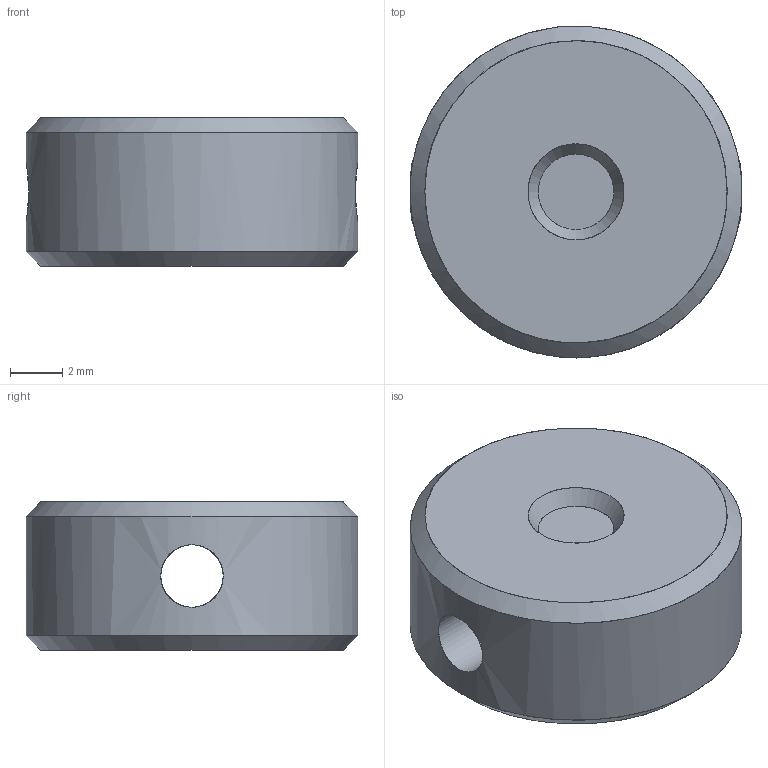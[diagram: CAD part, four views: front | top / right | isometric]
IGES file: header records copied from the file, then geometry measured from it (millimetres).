
Global section: file name: E:\M1337\M1337 Remodel\English\Bolts\IGES Files\Bolt Carrier Spring Plate.igs; native system: NX V2007; preprocessor: SIEMENS PLM Software NX 2027; date: 20260725.083827; units: inch
Bounding box: 12.66 x 12.66 x 5.66 mm (x, y, z)
Surface area: 538.8 mm2 (no closed solid volume)
Topology: 0 solids, 0 shells, 8 faces, 93 edges, 107 vertices
Faces by surface type: bspline 8
